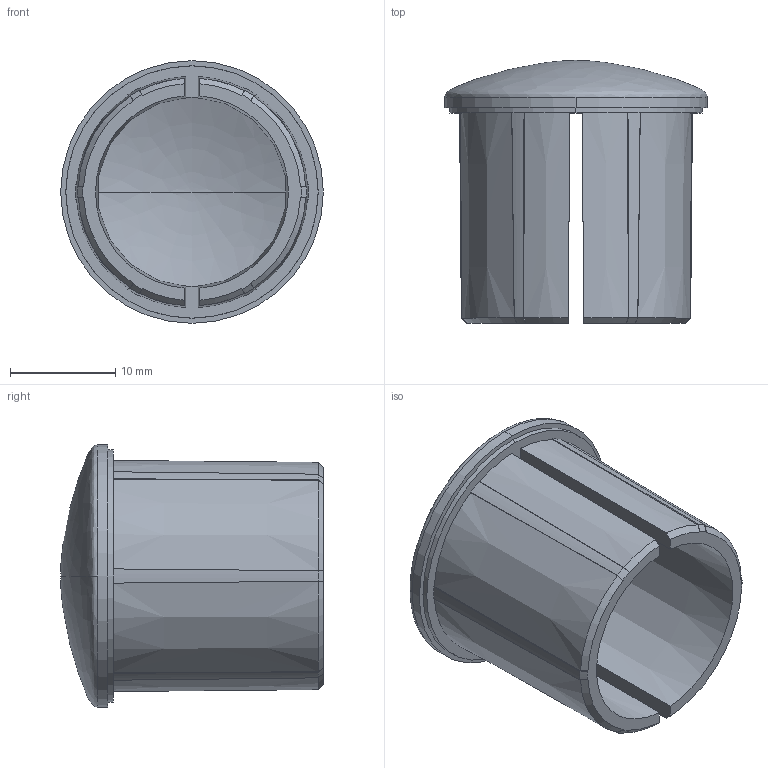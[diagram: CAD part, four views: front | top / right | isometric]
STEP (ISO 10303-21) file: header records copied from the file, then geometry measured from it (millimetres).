
FILE_DESCRIPTION (( 'STEP AP203' ), '1' );
FILE_NAME ('084.506.009B.STEP', '2021-03-24T08:13:27', ( '' ), ( '' ), 'SwSTEP 2.0', 'SolidWorks 2018', '' );
FILE_SCHEMA (( 'CONFIG_CONTROL_DESIGN' ));
Length unit declared in the file: millimetre
Products named in the file (1): 084.506.009B
Bounding box: 24.98 x 25 x 24.98 mm (x, y, z)
Volume: 3344.8 mm3; surface area: 3758.2 mm2
Topology: 1 solids, 1 shells, 58 faces, 168 edges, 110 vertices
Faces by surface type: cone 34, plane 20, bspline 4
Entity records: 2315 total; most frequent: CARTESIAN_POINT 809, ORIENTED_EDGE 328, DIRECTION 272, EDGE_CURVE 164, AXIS2_PLACEMENT_3D 117, VERTEX_POINT 110, B_SPLINE_CURVE_WITH_KNOTS 64, CIRCLE 62
